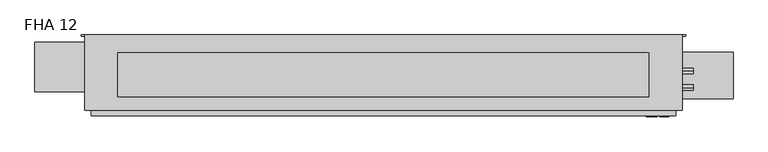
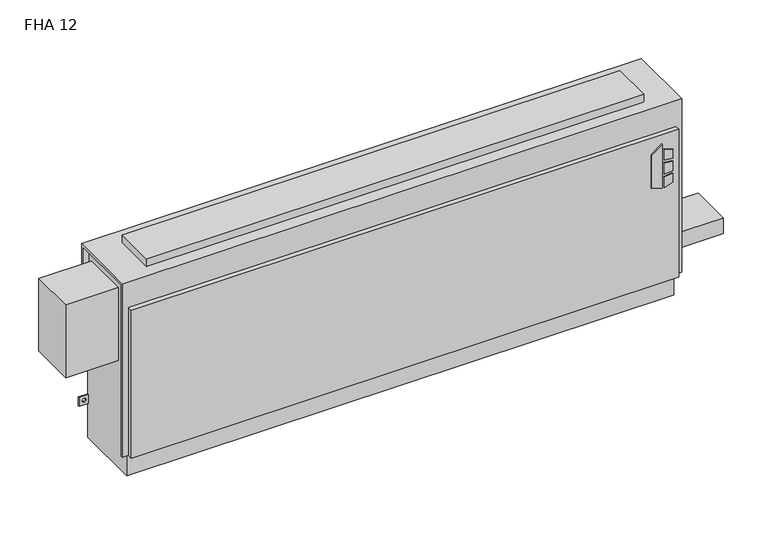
"""IFC4 building model written with IfcOpenShell, lengths in millimetres: proxy geometry, Vertical_Fan_Coil_Unit_-_FHA_-_IEC_-_2-Pipe_TS-FR_RH_2022 : FHA 12."""

from ifc_helpers import new_model, si_unit, point, frame, frame_2d, origin, place, context, project, spatial, polyline, circle_curve, trimmed, segment, composite_curve, outline, extrude, source, transform, mapped, element, save
from ifc_brep_helpers import plane_surface, revolved_surface, advanced_brep


def fha_12_b28fb9b4(model_context):
    return source(origin(), model_context, "Body", "SolidModel", [
        extrude(outline(polyline([(391.6086829, 906.5368862), (381.6606126, 938.7102728), (523.831537, 938.7102728), (500.8095309, 906.5368862), (391.6086829, 906.5368862)])), frame((0.0, 9.525, 0.0), z_axis=(0.0, 1.0, 0.0), x_axis=(0.0, 0.0, 1.0)), (0.0, 0.0, 1.0), 3.175),
        extrude(outline(polyline([(470.6079683, 945.4686058), (467.4055757, 971.55), (496.6344168, 971.55), (504.6988318, 945.4686058), (470.6079683, 945.4686058)])), frame((0.0, 9.525, 0.0), z_axis=(0.0, 1.0, 0.0), x_axis=(0.0, 0.0, 1.0)), (0.0, 0.0, 1.0), 3.175),
        extrude(outline(polyline([(418.7444414, 971.55), (415.0789404, 945.4686058), (381.6606126, 945.4686058), (390.2948498, 971.55), (418.7444414, 971.55)])), frame((0.0, 9.525, 0.0), z_axis=(0.0, 1.0, 0.0), x_axis=(0.0, 0.0, 1.0)), (0.0, 0.0, 1.0), 3.175),
        extrude(outline(polyline([(458.0596028, 971.55), (460.3414292, 945.4686058), (424.4038806, 945.4686058), (427.1451456, 971.55), (458.0596028, 971.55)])), frame((0.0, 9.525, 0.0), z_axis=(0.0, 1.0, 0.0), x_axis=(0.0, 0.0, 1.0)), (0.0, 0.0, 1.0), 3.175),
        extrude(outline(composite_curve([segment(trimmed(circle_curve(frame_2d((1054.1, 128.5875)), 9.525), [point((1044.575, 128.5875))], [point((1063.625, 128.5875))], False, "CARTESIAN"), True, "CONTINUOUS"), segment(trimmed(circle_curve(frame_2d((1054.1, 128.5875)), 9.525), [point((1063.625, 128.5875))], [point((1044.575, 128.5875))], False, "CARTESIAN"), True, "CONTINUOUS")], self_intersect=False)), frame((0.0, 0.0, 101.6), z_axis=(0.0, 0.0, 1.0), x_axis=(1.0, 0.0, 0.0)), (0.0, 0.0, 1.0), 25.4),
        extrude(outline(polyline([(1155.7, 195.2625), (1155.7, 61.9125), (990.6, 61.9125), (990.6, 195.2625), (1155.7, 195.2625)])), frame((0.0, 0.0, 127.0), z_axis=(0.0, 0.0, 1.0), x_axis=(1.0, 0.0, 0.0)), (0.0, 0.0, 1.0), 50.8),
        extrude(outline(polyline([(914.4, 193.675), (914.4, 66.675), (-609.6, 66.675), (-609.6, 193.675), (914.4, 193.675)])), frame((0.0, 0.0, 635.0), z_axis=(0.0, 0.0, 1.0), x_axis=(1.0, 0.0, 0.0)), (0.0, 0.0, 1.0), 25.4),
        extrude(outline(composite_curve([segment(trimmed(circle_curve(frame_2d((93.1926, 488.0102)), 7.9375), [point((93.1926, 480.0727))], [point((93.1926, 495.9477))], False, "CARTESIAN"), True, "CONTINUOUS"), segment(trimmed(circle_curve(frame_2d((93.1926, 488.0102)), 7.9375), [point((93.1926, 495.9477))], [point((93.1926, 480.0727))], False, "CARTESIAN"), True, "CONTINUOUS")], self_intersect=False)), frame((990.6, 0.0, 0.0), z_axis=(1.0, 0.0, 0.0), x_axis=(0.0, 1.0, 0.0)), (0.0, 0.0, 1.0), 50.8),
        extrude(outline(composite_curve([segment(trimmed(circle_curve(frame_2d((141.3002, 461.3402)), 7.9375), [point((141.3002, 453.4027))], [point((141.3002, 469.2777))], False, "CARTESIAN"), True, "CONTINUOUS"), segment(trimmed(circle_curve(frame_2d((141.3002, 461.3402)), 7.9375), [point((141.3002, 469.2777))], [point((141.3002, 453.4027))], False, "CARTESIAN"), True, "CONTINUOUS")], self_intersect=False)), frame((990.6, 0.0, 0.0), z_axis=(1.0, 0.0, 0.0), x_axis=(0.0, 1.0, 0.0)), (0.0, 0.0, 1.0), 50.8),
        extrude(outline(polyline([(-847.725, 223.266), (-685.8, 223.266), (-685.8, 81.534), (-847.725, 81.534), (-847.725, 223.266)])), frame((0.0, 0.0, 349.25), z_axis=(0.0, 0.0, 1.0), x_axis=(1.0, 0.0, 0.0)), (0.0, 0.0, 1.0), 234.95),
        advanced_brep(
        [(1009.65, 244.475, 635.0), (-704.85, 244.475, 635.0), (-704.85, 28.575, 635.0), (1009.65, 28.575, 635.0), (-685.8, 244.475, 0.0), (990.6, 244.475, 0.0), (990.6, 38.1, 0.0), (-685.8, 38.1, 0.0), (1009.65, 244.475, 558.8), (990.6, 244.475, 558.8), (990.6, 244.475, 414.3375), (1019.175, 244.475, 414.3375), (1019.175, 244.475, 385.7625), (990.6, 244.475, 385.7625), (990.6, 244.475, 287.3375), (1019.175, 244.475, 287.3375), (1019.175, 244.475, 258.7625), (990.6, 244.475, 258.7625), (990.6, 244.475, 141.2875), (1019.175, 244.475, 141.2875), (1019.175, 244.475, 112.7125), (990.6, 244.475, 112.7125), (-685.8, 244.475, 112.7125), (-714.375, 244.475, 112.7125), (-714.375, 244.475, 141.2875), (-685.8, 244.475, 141.2875), (-685.8, 244.475, 258.7625), (-714.375, 244.475, 258.7625), (-714.375, 244.475, 287.3375), (-685.8, 244.475, 287.3375), (-685.8, 244.475, 385.7625), (-714.375, 244.475, 385.7625), (-714.375, 244.475, 414.3375), (-685.8, 244.475, 414.3375), (-685.8, 244.475, 558.8), (-704.85, 244.475, 558.8), (1008.8626, 244.475, 127.0), (997.7374, 244.475, 127.0), (-692.9374, 244.475, 127.0), (-704.0626, 244.475, 127.0), (1008.8626, 244.475, 273.05), (997.7374, 244.475, 273.05), (-692.9374, 244.475, 273.05), (-704.0626, 244.475, 273.05), (1008.8626, 244.475, 400.05), (997.7374, 244.475, 400.05), (-692.9374, 244.475, 400.05), (-704.0626, 244.475, 400.05), (-704.85, 238.125, 558.8), (-704.85, 238.125, 628.65), (-704.85, 34.925, 628.65), (-704.85, 34.925, 73.025), (-704.85, 28.575, 73.025), (990.6, 12.7, 552.45), (-685.8, 12.7, 552.45), (-685.8, 12.7, 73.025), (990.6, 12.7, 73.025), (1009.65, 28.575, 73.025), (1009.65, 34.925, 73.025), (1009.65, 34.925, 628.65), (1009.65, 238.125, 628.65), (1009.65, 238.125, 558.8), (-685.8, 28.575, 73.025), (-685.8, 28.575, 552.45), (990.6, 28.575, 552.45), (990.6, 28.575, 73.025), (-685.8, 34.925, 73.025), (-685.8, 38.1, 73.025), (990.6, 38.1, 73.025), (990.6, 34.925, 73.025), (990.6, 241.3, 112.7125), (990.6, 241.3, 141.2875), (990.6, 241.3, 258.7625), (990.6, 241.3, 287.3375), (990.6, 241.3, 385.7625), (990.6, 241.3, 414.3375), (990.6, 238.125, 558.8), (990.6, 238.125, 628.65), (990.6, 34.925, 628.65), (-685.8, 34.925, 628.65), (-685.8, 238.125, 628.65), (-685.8, 238.125, 558.8), (-685.8, 241.3, 414.3375), (-685.8, 241.3, 385.7625), (-685.8, 241.3, 287.3375), (-685.8, 241.3, 258.7625), (-685.8, 241.3, 141.2875), (-685.8, 241.3, 112.7125), (1019.175, 241.3, 112.7125), (1019.175, 241.3, 141.2875), (997.7374, 241.3, 127.0), (1008.8626, 241.3, 127.0), (1019.175, 241.3, 258.7625), (1019.175, 241.3, 287.3375), (997.7374, 241.3, 273.05), (1008.8626, 241.3, 273.05), (1019.175, 241.3, 385.7625), (1019.175, 241.3, 414.3375), (997.7374, 241.3, 400.05), (1008.8626, 241.3, 400.05), (-714.375, 241.3, 141.2875), (-714.375, 241.3, 112.7125), (-704.0626, 241.3, 127.0), (-692.9374, 241.3, 127.0), (-714.375, 241.3, 287.3375), (-714.375, 241.3, 258.7625), (-704.0626, 241.3, 273.05), (-692.9374, 241.3, 273.05), (-714.375, 241.3, 414.3375), (-714.375, 241.3, 385.7625), (-704.0626, 241.3, 400.05), (-692.9374, 241.3, 400.05)],
        [
            (0, 1),
            (1, 2),
            (2, 3),
            (3, 0),
            (4, 5),
            (5, 6),
            (6, 7),
            (7, 4),
            (0, 8),
            (8, 9),
            (9, 10),
            (10, 11),
            (11, 12),
            (12, 13),
            (13, 14),
            (14, 15),
            (15, 16),
            (16, 17),
            (17, 18),
            (18, 19),
            (19, 20),
            (20, 21),
            (21, 5),
            (4, 22),
            (22, 23),
            (23, 24),
            (24, 25),
            (25, 26),
            (26, 27),
            (27, 28),
            (28, 29),
            (29, 30),
            (30, 31),
            (31, 32),
            (32, 33),
            (33, 34),
            (34, 35),
            (35, 1),
            (36, 37, circle_curve(frame((1003.3, 244.475, 127.0), z_axis=(0.0, -1.0, 0.0), x_axis=(-1.0, 0.0, 0.0)), 5.5626)),
            (37, 36, circle_curve(frame((1003.3, 244.475, 127.0), z_axis=(0.0, -1.0, 0.0), x_axis=(-1.0, 0.0, 0.0)), 5.5626)),
            (38, 39, circle_curve(frame((-698.5, 244.475, 127.0), z_axis=(0.0, -1.0, 0.0), x_axis=(-1.0, 0.0, 0.0)), 5.5626)),
            (39, 38, circle_curve(frame((-698.5, 244.475, 127.0), z_axis=(0.0, -1.0, 0.0), x_axis=(-1.0, 0.0, 0.0)), 5.5626)),
            (40, 41, circle_curve(frame((1003.3, 244.475, 273.05), z_axis=(0.0, -1.0, 0.0), x_axis=(-1.0, 0.0, 0.0)), 5.5626)),
            (41, 40, circle_curve(frame((1003.3, 244.475, 273.05), z_axis=(0.0, -1.0, 0.0), x_axis=(-1.0, 0.0, 0.0)), 5.5626)),
            (42, 43, circle_curve(frame((-698.5, 244.475, 273.05), z_axis=(0.0, -1.0, 0.0), x_axis=(-1.0, 0.0, 0.0)), 5.5626)),
            (43, 42, circle_curve(frame((-698.5, 244.475, 273.05), z_axis=(0.0, -1.0, 0.0), x_axis=(-1.0, 0.0, 0.0)), 5.5626)),
            (44, 45, circle_curve(frame((1003.3, 244.475, 400.05), z_axis=(0.0, -1.0, 0.0), x_axis=(-1.0, 0.0, 0.0)), 5.5626)),
            (45, 44, circle_curve(frame((1003.3, 244.475, 400.05), z_axis=(0.0, -1.0, 0.0), x_axis=(-1.0, 0.0, 0.0)), 5.5626)),
            (46, 47, circle_curve(frame((-698.5, 244.475, 400.05), z_axis=(0.0, -1.0, 0.0), x_axis=(-1.0, 0.0, 0.0)), 5.5626)),
            (47, 46, circle_curve(frame((-698.5, 244.475, 400.05), z_axis=(0.0, -1.0, 0.0), x_axis=(-1.0, 0.0, 0.0)), 5.5626)),
            (35, 48),
            (48, 49),
            (49, 50),
            (50, 51),
            (51, 52),
            (52, 2),
            (53, 54),
            (54, 55),
            (55, 56),
            (56, 53),
            (3, 57),
            (57, 58),
            (58, 59),
            (59, 60),
            (60, 61),
            (61, 8),
            (52, 62),
            (62, 63),
            (63, 64),
            (64, 65),
            (65, 57),
            (53, 64),
            (63, 54),
            (55, 62),
            (51, 66),
            (66, 67),
            (67, 68),
            (68, 69),
            (69, 58),
            (65, 56),
            (6, 68),
            (67, 7),
            (21, 70),
            (70, 71),
            (71, 18),
            (17, 72),
            (72, 73),
            (73, 14),
            (13, 74),
            (74, 75),
            (75, 10),
            (9, 76),
            (76, 77),
            (77, 78),
            (78, 69),
            (66, 79),
            (79, 80),
            (80, 81),
            (81, 34),
            (33, 82),
            (82, 83),
            (83, 30),
            (29, 84),
            (84, 85),
            (85, 26),
            (25, 86),
            (86, 87),
            (87, 22),
            (76, 61),
            (60, 77),
            (78, 59),
            (50, 79),
            (81, 48),
            (80, 49),
            (70, 88),
            (88, 89),
            (89, 71),
            (90, 91, circle_curve(frame((1003.3, 241.3, 127.0), z_axis=(0.0, 1.0, 0.0), x_axis=(-1.0, 0.0, 0.0)), 5.5626)),
            (91, 90, circle_curve(frame((1003.3, 241.3, 127.0), z_axis=(0.0, 1.0, 0.0), x_axis=(-1.0, 0.0, 0.0)), 5.5626)),
            (92, 93),
            (93, 73),
            (72, 92),
            (94, 95, circle_curve(frame((1003.3, 241.3, 273.05), z_axis=(0.0, 1.0, 0.0), x_axis=(-1.0, 0.0, 0.0)), 5.5626)),
            (95, 94, circle_curve(frame((1003.3, 241.3, 273.05), z_axis=(0.0, 1.0, 0.0), x_axis=(-1.0, 0.0, 0.0)), 5.5626)),
            (96, 97),
            (97, 75),
            (74, 96),
            (98, 99, circle_curve(frame((1003.3, 241.3, 400.05), z_axis=(0.0, 1.0, 0.0), x_axis=(-1.0, 0.0, 0.0)), 5.5626)),
            (99, 98, circle_curve(frame((1003.3, 241.3, 400.05), z_axis=(0.0, 1.0, 0.0), x_axis=(-1.0, 0.0, 0.0)), 5.5626)),
            (100, 101),
            (101, 87),
            (86, 100),
            (102, 103, circle_curve(frame((-698.5, 241.3, 127.0), z_axis=(0.0, 1.0, 0.0), x_axis=(-1.0, 0.0, 0.0)), 5.5626)),
            (103, 102, circle_curve(frame((-698.5, 241.3, 127.0), z_axis=(0.0, 1.0, 0.0), x_axis=(-1.0, 0.0, 0.0)), 5.5626)),
            (84, 104),
            (104, 105),
            (105, 85),
            (106, 107, circle_curve(frame((-698.5, 241.3, 273.05), z_axis=(0.0, 1.0, 0.0), x_axis=(-1.0, 0.0, 0.0)), 5.5626)),
            (107, 106, circle_curve(frame((-698.5, 241.3, 273.05), z_axis=(0.0, 1.0, 0.0), x_axis=(-1.0, 0.0, 0.0)), 5.5626)),
            (108, 109),
            (109, 83),
            (82, 108),
            (110, 111, circle_curve(frame((-698.5, 241.3, 400.05), z_axis=(0.0, 1.0, 0.0), x_axis=(-1.0, 0.0, 0.0)), 5.5626)),
            (111, 110, circle_curve(frame((-698.5, 241.3, 400.05), z_axis=(0.0, 1.0, 0.0), x_axis=(-1.0, 0.0, 0.0)), 5.5626)),
            (89, 19),
            (88, 20),
            (16, 92),
            (93, 15),
            (12, 96),
            (97, 11),
            (24, 100),
            (101, 23),
            (105, 27),
            (104, 28),
            (32, 108),
            (109, 31),
            (90, 37),
            (36, 91),
            (102, 39),
            (38, 103),
            (94, 41),
            (40, 95),
            (106, 43),
            (42, 107),
            (98, 45),
            (44, 99),
            (110, 47),
            (46, 111),
        ],
        [
            plane_surface(frame((-704.85, 244.475, 635.0), z_axis=(0.0, 0.0, 1.0), x_axis=(-1.0, 0.0, 0.0))),
            plane_surface(frame((-704.85, 244.475, 0.0), z_axis=(0.0, 0.0, -1.0), x_axis=(1.0, 0.0, 0.0))),
            plane_surface(frame((1009.65, 244.475, 635.0), z_axis=(0.0, 1.0, 0.0), x_axis=(0.0, 0.0, -1.0))),
            plane_surface(frame((-704.85, 244.475, 635.0), z_axis=(-1.0, 0.0, 0.0), x_axis=(0.0, 0.0, -1.0))),
            plane_surface(frame((-704.85, 12.7, 635.0), z_axis=(0.0, -1.0, 0.0), x_axis=(0.0, 0.0, -1.0))),
            plane_surface(frame((1009.65, 12.7, 635.0), z_axis=(1.0, 0.0, 0.0), x_axis=(0.0, 0.0, -1.0))),
            plane_surface(frame((-1263.65, 28.575, 635.0), z_axis=(0.0, -1.0, 0.0), x_axis=(1.0, 0.0, 0.0))),
            plane_surface(frame((-1263.65, 28.575, 552.45), z_axis=(0.0, 0.0, 1.0), x_axis=(1.0, 0.0, 0.0))),
            plane_surface(frame((-704.85, 12.7, 73.025), z_axis=(0.0, 0.0, -1.0), x_axis=(1.0, 0.0, 0.0))),
            plane_surface(frame((-704.85, 38.1, 73.025), z_axis=(0.0, -1.0, 0.0), x_axis=(1.0, 0.0, 0.0))),
            plane_surface(frame((990.6, 28.575, 73.025), z_axis=(1.0, 0.0, 0.0), x_axis=(0.0, -1.0, 0.0))),
            plane_surface(frame((-685.8, 28.575, 552.45), z_axis=(-1.0, 0.0, 0.0), x_axis=(0.0, -1.0, 0.0))),
            plane_surface(frame((990.6, 244.475, 0.0), z_axis=(1.0, 0.0, 0.0), x_axis=(0.0, -1.0, 0.0))),
            plane_surface(frame((-685.8, 244.475, 73.025), z_axis=(-1.0, 0.0, 0.0), x_axis=(0.0, -1.0, 0.0))),
            plane_surface(frame((990.6, 238.125, 628.65), z_axis=(0.0, -1.0, 0.0), x_axis=(1.0, 0.0, 0.0))),
            plane_surface(frame((990.6, 238.125, 558.8), z_axis=(0.0, 0.0, -1.0), x_axis=(1.0, 0.0, 0.0))),
            plane_surface(frame((990.6, 34.925, 73.025), z_axis=(0.0, 1.0, 0.0), x_axis=(1.0, 0.0, 0.0))),
            plane_surface(frame((990.6, 34.925, 628.65), z_axis=(0.0, 0.0, -1.0), x_axis=(1.0, 0.0, 0.0))),
            plane_surface(frame((-685.8, 34.925, 628.65), z_axis=(0.0, 1.0, 0.0), x_axis=(-1.0, 0.0, 0.0))),
            plane_surface(frame((-685.8, 244.475, 558.8), z_axis=(0.0, 0.0, -1.0), x_axis=(-1.0, 0.0, 0.0))),
            plane_surface(frame((-685.8, 238.125, 558.8), z_axis=(0.0, -1.0, 0.0), x_axis=(-1.0, 0.0, 0.0))),
            plane_surface(frame((-685.8, 238.125, 628.65), z_axis=(0.0, 0.0, -1.0), x_axis=(-1.0, 0.0, 0.0))),
            plane_surface(frame((1019.175, 241.3, 141.2875), z_axis=(0.0, -1.0, 0.0), x_axis=(-1.0, 0.0, 0.0))),
            plane_surface(frame((990.6, 244.475, 141.2875), z_axis=(0.0, 0.0, 1.0), x_axis=(0.0, -1.0, 0.0))),
            plane_surface(frame((1019.175, 244.475, 141.2875), z_axis=(1.0, 0.0, 0.0), x_axis=(0.0, -1.0, 0.0))),
            plane_surface(frame((1019.175, 244.475, 112.7125), z_axis=(0.0, 0.0, -1.0), x_axis=(0.0, -1.0, 0.0))),
            plane_surface(frame((1019.175, 244.475, 258.7625), z_axis=(0.0, 0.0, -1.0), x_axis=(0.0, -1.0, 0.0))),
            plane_surface(frame((990.6, 244.475, 287.3375), z_axis=(0.0, 0.0, 1.0), x_axis=(0.0, -1.0, 0.0))),
            plane_surface(frame((1019.175, 244.475, 287.3375), z_axis=(1.0, 0.0, 0.0), x_axis=(0.0, -1.0, 0.0))),
            plane_surface(frame((1019.175, 244.475, 385.7625), z_axis=(0.0, 0.0, -1.0), x_axis=(0.0, -1.0, 0.0))),
            plane_surface(frame((990.6, 244.475, 414.3375), z_axis=(0.0, 0.0, 1.0), x_axis=(0.0, -1.0, 0.0))),
            plane_surface(frame((1019.175, 244.475, 414.3375), z_axis=(1.0, 0.0, 0.0), x_axis=(0.0, -1.0, 0.0))),
            plane_surface(frame((-714.375, 244.475, 141.2875), z_axis=(0.0, 0.0, 1.0), x_axis=(0.0, -1.0, 0.0))),
            plane_surface(frame((-685.8, 244.475, 112.7125), z_axis=(0.0, 0.0, -1.0), x_axis=(0.0, -1.0, 0.0))),
            plane_surface(frame((-714.375, 244.475, 112.7125), z_axis=(-1.0, 0.0, 0.0), x_axis=(0.0, -1.0, 0.0))),
            plane_surface(frame((-685.8, 244.475, 258.7625), z_axis=(0.0, 0.0, -1.0), x_axis=(0.0, -1.0, 0.0))),
            plane_surface(frame((-714.375, 244.475, 258.7625), z_axis=(-1.0, 0.0, 0.0), x_axis=(0.0, -1.0, 0.0))),
            plane_surface(frame((-714.375, 244.475, 287.3375), z_axis=(0.0, 0.0, 1.0), x_axis=(0.0, -1.0, 0.0))),
            plane_surface(frame((-714.375, 244.475, 414.3375), z_axis=(0.0, 0.0, 1.0), x_axis=(0.0, -1.0, 0.0))),
            plane_surface(frame((-685.8, 244.475, 385.7625), z_axis=(0.0, 0.0, -1.0), x_axis=(0.0, -1.0, 0.0))),
            plane_surface(frame((-714.375, 244.475, 385.7625), z_axis=(-1.0, 0.0, 0.0), x_axis=(0.0, -1.0, 0.0))),
            revolved_surface(polyline([(997.7374, 241.3, 127.0), (997.7374, 244.475, 127.0)]), (1003.3, 244.475, 127.0), (0.0, -1.0, 0.0)),
            revolved_surface(polyline([(-704.0626, 241.3, 127.0), (-704.0626, 244.475, 127.0)]), (-698.5, 244.475, 127.0), (0.0, -1.0, 0.0)),
            revolved_surface(polyline([(997.7374, 241.3, 273.05), (997.7374, 244.475, 273.05)]), (1003.3, 244.475, 273.05), (0.0, -1.0, 0.0)),
            revolved_surface(polyline([(-704.0626, 241.3, 273.05), (-704.0626, 244.475, 273.05)]), (-698.5, 244.475, 273.05), (0.0, -1.0, 0.0)),
            revolved_surface(polyline([(997.7374, 241.3, 400.05), (997.7374, 244.475, 400.05)]), (1003.3, 244.475, 400.05), (0.0, -1.0, 0.0)),
            revolved_surface(polyline([(-704.0626, 241.3, 400.05), (-704.0626, 244.475, 400.05)]), (-698.5, 244.475, 400.05), (0.0, -1.0, 0.0)),
        ],
        [
            (0, [[1, 2, 3, 4]]),
            (1, [[5, 6, 7, 8]]),
            (2, [[-1, 9, 10, 11, 12, 13, 14, 15, 16, 17, 18, 19, 20, 21, 22, 23, -5, 24, 25, 26, 27, 28, 29, 30, 31, 32, 33, 34, 35, 36, 37, 38], [39, 40], [41, 42], [43, 44], [45, 46], [47, 48], [49, 50]]),
            (3, [[-2, -38, 51, 52, 53, 54, 55, 56]]),
            (4, [[57, 58, 59, 60]]),
            (5, [[-4, 61, 62, 63, 64, 65, 66, -9]]),
            (6, [[-3, -56, 67, 68, 69, 70, 71, -61]]),
            (7, [[-57, 72, -69, 73]]),
            (8, [[-59, 74, -67, -55, 75, 76, 77, 78, 79, -62, -71, 80]]),
            (9, [[-7, 81, -77, 82]]),
            (10, [[-70, -72, -60, -80]]),
            (11, [[-68, -74, -58, -73]]),
            (12, [[-6, -23, 83, 84, 85, -19, 86, 87, 88, -15, 89, 90, 91, -11, 92, 93, 94, 95, -78, -81]]),
            (13, [[-8, -82, -76, 96, 97, 98, 99, -36, 100, 101, 102, -32, 103, 104, 105, -28, 106, 107, 108, -24]]),
            (14, [[-93, 109, -65, 110]]),
            (15, [[-92, -10, -66, -109]]),
            (16, [[-95, 111, -63, -79]]),
            (17, [[-94, -110, -64, -111]]),
            (18, [[-96, -75, -54, 112]]),
            (19, [[-99, 113, -51, -37]]),
            (20, [[-98, 114, -52, -113]]),
            (21, [[-97, -112, -53, -114]]),
            (22, [[115, 116, 117, -84], [118, 119]]),
            (22, [[120, 121, -87, 122], [123, 124]]),
            (22, [[125, 126, -90, 127], [128, 129]]),
            (22, [[130, 131, -107, 132], [133, 134]]),
            (22, [[135, 136, 137, -104], [138, 139]]),
            (22, [[140, 141, -101, 142], [143, 144]]),
            (23, [[-117, 145, -20, -85]]),
            (24, [[-116, 146, -21, -145]]),
            (25, [[-115, -83, -22, -146]]),
            (26, [[-122, -86, -18, 147]]),
            (27, [[-121, 148, -16, -88]]),
            (28, [[-120, -147, -17, -148]]),
            (29, [[-127, -89, -14, 149]]),
            (30, [[-126, 150, -12, -91]]),
            (31, [[-125, -149, -13, -150]]),
            (32, [[-132, -106, -27, 151]]),
            (33, [[-131, 152, -25, -108]]),
            (34, [[-130, -151, -26, -152]]),
            (35, [[-137, 153, -29, -105]]),
            (36, [[-136, 154, -30, -153]]),
            (37, [[-135, -103, -31, -154]]),
            (38, [[-142, -100, -35, 155]]),
            (39, [[-141, 156, -33, -102]]),
            (40, [[-140, -155, -34, -156]]),
            (41, [[157, -39, 158, -118]]),
            (41, [[-157, -119, -158, -40]]),
            (42, [[159, -41, 160, -133]]),
            (42, [[-159, -134, -160, -42]]),
            (43, [[161, -43, 162, -123]]),
            (43, [[-161, -124, -162, -44]]),
            (44, [[163, -45, 164, -138]]),
            (44, [[-163, -139, -164, -46]]),
            (45, [[165, -47, 166, -128]]),
            (45, [[-165, -129, -166, -48]]),
            (46, [[167, -49, 168, -143]]),
            (46, [[-167, -144, -168, -50]]),
        ],
    ),
    ])


if __name__ == "__main__":
    model = new_model("IFC4")
    model_context = context("Model", 3, world=origin())
    ifc_project = project(units=[si_unit("LENGTHUNIT", "METRE", prefix="MILLI")], contexts=[model_context])
    site = spatial("IfcSite", under=ifc_project)
    building = spatial("IfcBuilding", under=site)
    placement = place(None, origin())
    fha_12_shape = fha_12_b28fb9b4(model_context)
    element("IfcBuildingElementProxy", 1, Name="Vertical_Fan_Coil_Unit_-_FHA_-_IEC_-_2-Pipe_TS-FR_RH_2022 : FHA 12", ObjectType="Vertical_Fan_Coil_Unit_-_FHA_-_IEC_-_2-Pipe_TS-FR_RH_2022 : FHA 12", at=placement, inside=building, context=model_context, shape_type="MappedRepresentation", body=[
        mapped(fha_12_shape, transform((0.0, 0.0, 0.0), x_axis=(1.0, 0.0, 0.0), y_axis=(0.0, 1.0, 0.0), z_axis=(0.0, 0.0, 1.0))),
    ])
    save(model, "model.ifc")
